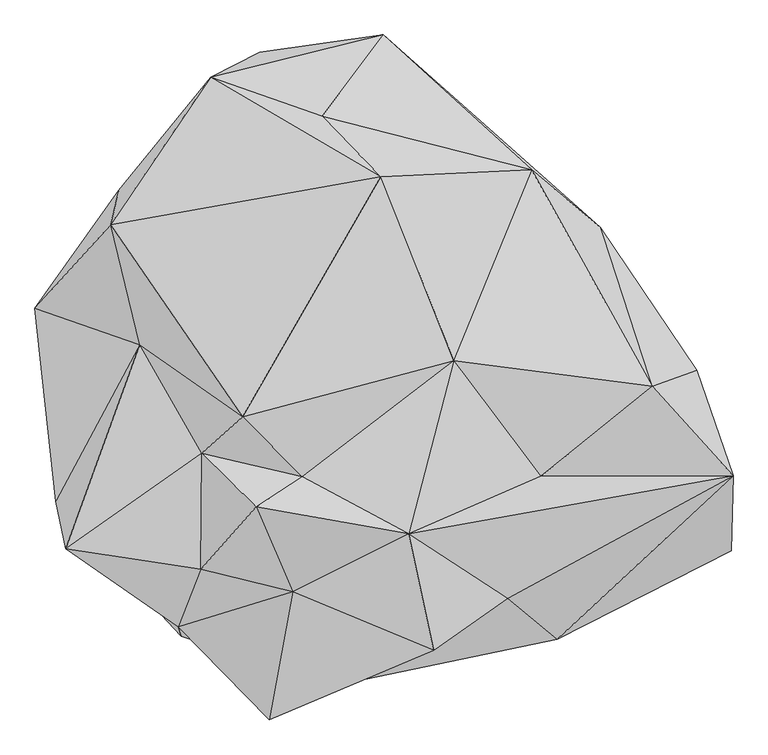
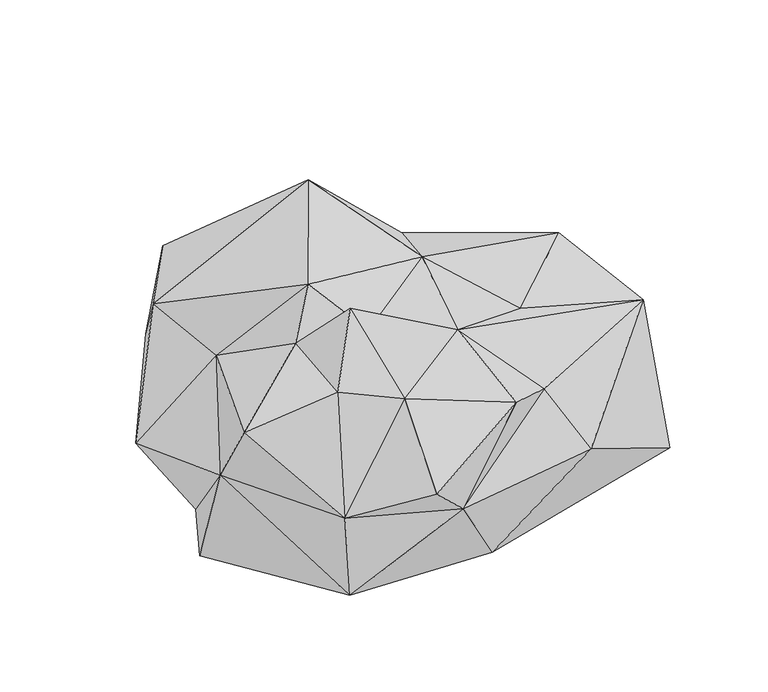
"""IFC4 building model written with IfcOpenShell, lengths in millimetres: geographic element geometry, Enscape AssetDefinition - Bush 012 English Laurel : Enscape AssetDefinition - Bush 012 English Laurel 3."""

import ifcopenshell
import ifcopenshell.guid

model = None  # the IFC model being written
_history = None  # IfcOwnerHistory: only IFC2X3 demands one
_inside = {}  # id of a spatial element -> (the spatial element, [elements in it])
_under = {}  # id of a project, library or spatial element -> (it, [spatial elements below it])
_declared = {}  # id of a project -> (the project, [libraries it declares])
_typed = {}  # id of a type object -> (the type object, [elements of that type])
_made_of = {}  # id of a material, layer set ... -> (it, [elements and type objects made of it])


def new_model(schema):
    """Start an empty IFC model of exactly this schema.

    Asked for "IFC4X3", IfcOpenShell would pick the latest addendum, in which some entities
    have other attributes; the version numbers below select the first issue.
    IFC2X3 requires an IfcOwnerHistory on every rooted entity: one is made here for all.
    """
    global model, _history
    if schema == "IFC4X3":
        model = ifcopenshell.file(schema_version=(4, 3, 0, 0))
    else:
        model = ifcopenshell.file(schema=schema)
    _inside.clear()
    _under.clear()
    _declared.clear()
    _typed.clear()
    _made_of.clear()
    _history = None
    if model.schema == "IFC2X3":
        org = make("IfcOrganization", Name="unknown")
        user = make(
            "IfcPersonAndOrganization",
            ThePerson=make("IfcPerson", FamilyName="unknown"),
            TheOrganization=org,
        )
        app = make(
            "IfcApplication",
            ApplicationDeveloper=org,
            Version="unknown",
            ApplicationFullName="unknown",
            ApplicationIdentifier="unknown",
        )
        _history = make(
            "IfcOwnerHistory",
            OwningUser=user,
            OwningApplication=app,
            ChangeAction="ADDED",
            CreationDate=0,
        )
    return model


def make(cls, **values):
    """One entity of the class cls with the attributes given. An attribute that is None is left unset."""
    return model.create_entity(
        cls, **{name: value for name, value in values.items() if value is not None}
    )


def rooted(cls, **values):
    """An entity with a GlobalId (a new one), such as an element, a storey or a relation."""
    return make(cls, GlobalId=ifcopenshell.guid.new(), OwnerHistory=_history, **values)


def si_unit(unit_type, name, prefix=None):
    """IfcSIUnit, for example si_unit("LENGTHUNIT", "METRE", prefix="MILLI")."""
    return make("IfcSIUnit", UnitType=unit_type, Prefix=prefix, Name=name)


def assignment(units):
    """IfcUnitAssignment: the units of a project."""
    return None if units is None else make("IfcUnitAssignment", Units=units)


def point(xyz):
    """IfcCartesianPoint."""
    return None if xyz is None else make("IfcCartesianPoint", Coordinates=xyz)


def direction(xyz):
    """IfcDirection."""
    return None if xyz is None else make("IfcDirection", DirectionRatios=xyz)


def frame(location, z_axis=None, x_axis=None):
    """IfcAxis2Placement3D, a coordinate frame: its origin and axes. An axis left out is left unset."""
    return make(
        "IfcAxis2Placement3D",
        Location=point(location),
        Axis=direction(z_axis),
        RefDirection=direction(x_axis),
    )


def origin():
    """The frame at (0, 0, 0) with its axes left unset."""
    return frame((0.0, 0.0, 0.0))


def place(relative_to, where):
    """IfcLocalPlacement: puts the frame where relative to a parent placement (None: the world)."""
    return make(
        "IfcLocalPlacement", PlacementRelTo=relative_to, RelativePlacement=where
    )


def context(
    kind, dimensions, precision=None, world=None, true_north=None, identifier=None
):
    """IfcGeometricRepresentationContext, for example the 3D "Model" context."""
    return make(
        "IfcGeometricRepresentationContext",
        ContextIdentifier=identifier,
        ContextType=kind,
        CoordinateSpaceDimension=dimensions,
        Precision=precision,
        WorldCoordinateSystem=world,
        TrueNorth=true_north,
    )


def project(units=None, contexts=None):
    """IfcProject with its units and contexts."""
    return rooted(
        "IfcProject",
        Name="project",
        RepresentationContexts=contexts,
        UnitsInContext=assignment(units),
    )


def spatial(cls, under=None, at=None, **own):
    """A site, building, storey or space (cls), placed at a placement, below another one or the project."""
    s = rooted(cls, ObjectPlacement=at, **own)
    if under is not None:
        _under.setdefault(under.id(), (under, []))[1].append(s)
    return s


def point_list(points):
    """IfcCartesianPointList2D or 3D."""
    cls = (
        "IfcCartesianPointList2D" if len(points[0]) == 2 else "IfcCartesianPointList3D"
    )
    return make(cls, CoordList=points)


def triangles(points, corners, closed=None, point_numbers=None):
    """IfcTriangulatedFaceSet: each triangle names its three corners, points numbered from 1."""
    return make(
        "IfcTriangulatedFaceSet",
        Coordinates=point_list(points),
        Closed=closed,
        CoordIndex=corners,
        PnIndex=point_numbers,
    )


def shape(context_of_items, identifier, shape_type, items):
    """IfcShapeRepresentation: the items that make up one representation, for example the "Body"."""
    return make(
        "IfcShapeRepresentation",
        ContextOfItems=context_of_items,
        RepresentationIdentifier=identifier,
        RepresentationType=shape_type,
        Items=items,
    )


def source(mapping_origin, context_of_items, identifier, shape_type, items):
    """IfcRepresentationMap: a shape defined once, which mapped items show again and again."""
    return make(
        "IfcRepresentationMap",
        MappingOrigin=mapping_origin,
        MappedRepresentation=shape(context_of_items, identifier, shape_type, items),
    )


def transform(
    local_origin,
    x_axis=None,
    y_axis=None,
    z_axis=None,
    scale=None,
    scale2=None,
    scale3=None,
    uniform=True,
):
    """IfcCartesianTransformationOperator3D, or its non-uniform kind. x_axis, y_axis, z_axis: its Axis1, 2, 3."""
    if uniform:
        return make(
            "IfcCartesianTransformationOperator3D",
            Axis1=direction(x_axis),
            Axis2=direction(y_axis),
            LocalOrigin=point(local_origin),
            Scale=scale,
            Axis3=direction(z_axis),
        )
    return make(
        "IfcCartesianTransformationOperator3DnonUniform",
        Axis1=direction(x_axis),
        Axis2=direction(y_axis),
        LocalOrigin=point(local_origin),
        Scale=scale,
        Axis3=direction(z_axis),
        Scale2=scale2,
        Scale3=scale3,
    )


def mapped(mapping_source, mapping_target):
    """IfcMappedItem: shows the shape of a source again, moved by a transform."""
    return make(
        "IfcMappedItem", MappingSource=mapping_source, MappingTarget=mapping_target
    )


def made_of(thing, what):
    """Note that an element or type object is made of a material, layer set ...; save() writes the relation."""
    if what is not None:
        _made_of.setdefault(what.id(), (what, []))[1].append(thing)
    return thing


def element(
    cls,
    number,
    at=None,
    inside=None,
    cuts=None,
    type_object=None,
    material=None,
    context=None,
    identifier="Body",
    shape_type=None,
    held_by="IfcProductDefinitionShape",
    body=None,
    shapes=None,
    **own,
):
    """One element of the class cls, such as IfcWall. Its Tag is "e" and its number.

    at: its placement. inside: the storey or other place that contains it. cuts: it is an
    opening in that element (IfcRelVoidsElement). A single representation is given by context,
    identifier, shape_type and body (its items); several are given by shapes. held_by: the class
    of the entity that holds the representations. save() writes the other relations.
    """
    e = rooted(cls, Tag="e%d" % number, ObjectPlacement=at, **own)
    if body is not None:
        shapes = [shape(context, identifier, shape_type, body)]
    if shapes is not None:
        e.Representation = make(held_by, Representations=shapes)
    if inside is not None:
        _inside.setdefault(inside.id(), (inside, []))[1].append(e)
    if cuts is not None:
        rooted(
            "IfcRelVoidsElement", RelatingBuildingElement=cuts, RelatedOpeningElement=e
        )
    if type_object is not None:
        _typed.setdefault(type_object.id(), (type_object, []))[1].append(e)
    return made_of(e, material)


def aggregate(whole, parts):
    """IfcRelAggregates: a whole, such as a stair, and the parts it consists of."""
    return rooted("IfcRelAggregates", RelatingObject=whole, RelatedObjects=parts)


def save(model, path):
    """Write the relations noted so far, then the file.

    IfcRelAggregates (storeys below a building ...), IfcRelContainedInSpatialStructure (elements
    in a storey), IfcRelDefinesByType, IfcRelAssociatesMaterial and IfcRelDeclares: one each for
    every whole, place, type object, material and project.
    """
    for whole, parts in _under.values():
        aggregate(whole, parts)
    for where, things in _inside.values():
        rooted(
            "IfcRelContainedInSpatialStructure",
            RelatedElements=things,
            RelatingStructure=where,
        )
    for kind, things in _typed.values():
        rooted("IfcRelDefinesByType", RelatedObjects=things, RelatingType=kind)
    for what, things in _made_of.values():
        rooted("IfcRelAssociatesMaterial", RelatedObjects=things, RelatingMaterial=what)
    for by, libraries in _declared.values():
        rooted("IfcRelDeclares", RelatingContext=by, RelatedDefinitions=libraries)
    model.write(path)


def geographic_element_fedf1de8(model_context):
    return source(origin(), model_context, "Body", "Tessellation", [
        triangles([(-235.5442527, -263.196453, 1133.2508858), (61.7971137, 870.9381907, 1285.3766293), (-460.7263109, -37.3817571, 1363.4394516), (1087.2119081, 77.8620261, 1073.8303848), (631.9673847, 896.7560188, 738.8328094), (665.8244024, -261.0117753, 953.5199232), (336.3811392, 175.328179, 1127.463303), (-850.471562, 235.2965208, 890.1026459), (-410.019922, -376.7330729, 1400.0000107), (-616.589835, -175.3761593, 1132.845896), (-620.4961372, -614.5702635, 1091.854648), (-1129.8813967, -535.4797786, 969.7410261), (-1167.9782719, -356.8745467, 609.0505059), (-960.7780558, 689.8828176, 976.1768251), (-704.1144344, -831.1999186, 464.3112665), (-1185.0306467, -177.0408833, 0.0), (-1247.1189354, 372.8769856, 393.1851937), (-549.2093548, 810.0928493, 0.0), (-993.1655411, 195.4455739, 0.0), (-693.9407822, -866.5342443, 0.0), (131.2316882, -896.8887869, 0.0), (541.3844327, -722.6585787, 773.6572826), (-133.6216767, -1057.3437458, 462.6063924), (729.1724979, -878.0121775, 427.6369062), (1393.8330906, -259.7654487, 752.9708273), (261.6176431, -920.404866, 908.2964481), (-272.4317177, -698.9628593, 982.3191828), (-361.3622088, -1182.4532604, 707.3735378), (167.1718818, -479.6576408, 1127.2603357), (1218.265028, -114.309874, 0.0), (1387.5881229, -543.501055, 0.0), (1255.7884644, 139.623427, 502.4361197), (891.5732683, 679.7760944, 313.5267566), (802.9653048, 429.2949446, 0.0), (-109.1092558, 1027.7924973, 0.0), (-397.5445207, 1342.7910027, 0.0), (187.5436579, 1144.9029362, 138.0591148), (70.1341729, 1407.4946114, 606.8713875), (-582.8934543, 1246.9102272, 869.9038788), (-161.0730535, 1099.3727938, 1041.7865559), (-756.2009354, 930.4490204, 321.4230769), (-986.2923414, 476.4430841, 213.4753418), (-929.3099184, 820.4962841, 698.6739235)], [[2, 14, 3], [41, 42, 43], [41, 18, 42], [36, 35, 18], [36, 18, 41], [36, 41, 39], [41, 43, 39], [39, 43, 14], [2, 39, 14], [40, 39, 2], [5, 40, 2], [5, 38, 40], [36, 39, 38], [39, 40, 38], [38, 37, 36], [37, 35, 36], [21, 18, 34], [18, 35, 34], [34, 35, 37], [33, 34, 37], [33, 37, 38], [33, 38, 5], [33, 5, 4], [32, 33, 4], [34, 33, 32], [34, 30, 21], [30, 34, 32], [31, 21, 30], [31, 30, 25], [25, 4, 6], [30, 32, 25], [4, 25, 32], [29, 25, 6], [15, 28, 27], [28, 26, 27], [27, 26, 29], [22, 25, 29], [26, 22, 29], [24, 25, 22], [31, 25, 24], [24, 21, 31], [15, 23, 28], [28, 23, 26], [26, 23, 22], [23, 24, 22], [21, 24, 23], [20, 18, 21], [21, 23, 20], [20, 23, 15], [19, 18, 20], [20, 16, 19], [42, 18, 19], [43, 42, 17], [42, 19, 17], [17, 14, 43], [19, 13, 17], [19, 16, 13], [13, 16, 20], [13, 20, 15], [3, 14, 8], [14, 17, 8], [17, 13, 8], [13, 15, 12], [13, 12, 8], [15, 11, 12], [15, 27, 11], [11, 27, 9], [9, 27, 29], [8, 10, 3], [10, 11, 9], [10, 12, 11], [8, 12, 10], [1, 3, 10], [9, 29, 1], [10, 9, 1], [29, 7, 1], [6, 7, 29], [6, 4, 7], [7, 5, 2], [4, 5, 7], [7, 2, 3], [7, 3, 1]]),
    ])


if __name__ == "__main__":
    model = new_model("IFC4")
    model_context = context("Model", 3, world=origin())
    ifc_project = project(units=[si_unit("LENGTHUNIT", "METRE", prefix="MILLI")], contexts=[model_context])
    site = spatial("IfcSite", under=ifc_project)
    building = spatial("IfcBuilding", under=site)
    placement = place(None, origin())
    geographic_element_shape = geographic_element_fedf1de8(model_context)
    element("IfcGeographicElement", 1, ObjectType="Enscape AssetDefinition - Bush 012 English Laurel : Enscape AssetDefinition - Bush 012 English Laurel 3", at=placement, inside=building, context=model_context, shape_type="MappedRepresentation", body=[
        mapped(geographic_element_shape, transform((0.0, 0.0, 0.0), x_axis=(1.0, 0.0, 0.0), y_axis=(0.0, 1.0, 0.0), z_axis=(0.0, 0.0, 1.0))),
    ])
    save(model, "model.ifc")
